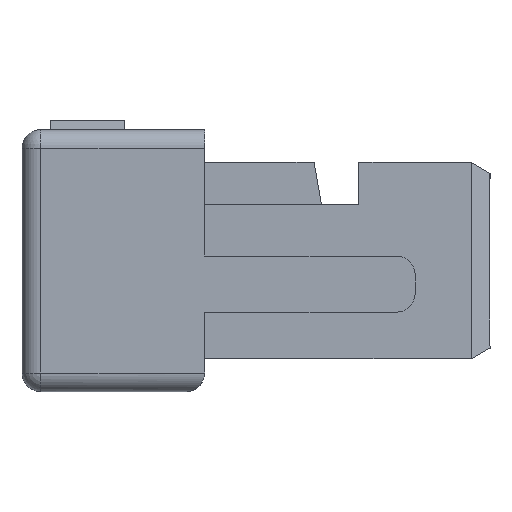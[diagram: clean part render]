
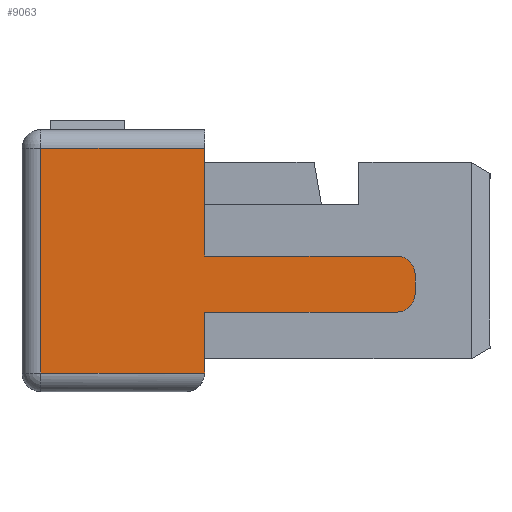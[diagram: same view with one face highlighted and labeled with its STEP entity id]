
A CAD part, left-side view. The second image highlights one B-rep face of the part: STEP entity #9063.
In plain terms, the highlighted planar face has unit normal (-1, 0, 0).
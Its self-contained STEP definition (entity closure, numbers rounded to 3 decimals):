
#2881=DIRECTION('',(0.,0.,1.));
#2882=VECTOR('',#2881,2.4);
#2883=CARTESIAN_POINT('',(0.,4.8,-2.7));
#2884=LINE('',#2883,#2882);
#2885=DIRECTION('',(0.,0.,-1.));
#2886=VECTOR('',#2885,1.15);
#2887=CARTESIAN_POINT('',(0.,3.05,-0.3));
#2888=LINE('',#2887,#2886);
#2889=DIRECTION('',(0.,-1.,0.));
#2890=VECTOR('',#2889,2.05);
#2891=CARTESIAN_POINT('',(0.,3.05,-1.45));
#2892=LINE('',#2891,#2890);
#2893=CARTESIAN_POINT('',(0.,1.,-1.65));
#2894=DIRECTION('',(1.,0.,0.));
#2895=DIRECTION('',(0.,0.,1.));
#2896=AXIS2_PLACEMENT_3D('',#2893,#2894,#2895);
#2898=CARTESIAN_POINT('',(0.,1.,-1.85));
#2899=DIRECTION('',(1.,0.,0.));
#2900=DIRECTION('',(0.,-1.,0.));
#2901=AXIS2_PLACEMENT_3D('',#2898,#2899,#2900);
#2908=DIRECTION('',(0.,-1.,0.));
#2909=VECTOR('',#2908,1.75);
#2910=CARTESIAN_POINT('',(0.,4.8,-2.7));
#2911=LINE('',#2910,#2909);
#2948=DIRECTION('',(0.,1.,0.));
#2949=VECTOR('',#2948,1.75);
#2950=CARTESIAN_POINT('',(0.,3.05,-0.3));
#2951=LINE('',#2950,#2949);
#2978=DIRECTION('',(0.,0.,1.));
#2979=VECTOR('',#2978,0.65);
#2980=CARTESIAN_POINT('',(0.,3.05,-2.7));
#2981=LINE('',#2980,#2979);
#2990=DIRECTION('',(0.,-1.,0.));
#2991=VECTOR('',#2990,2.05);
#2992=CARTESIAN_POINT('',(0.,3.05,-2.05));
#2993=LINE('',#2992,#2991);
#3014=DIRECTION('',(0.,0.,1.));
#3015=VECTOR('',#3014,0.2);
#3016=CARTESIAN_POINT('',(0.,0.8,-1.85));
#3017=LINE('',#3016,#3015);
#3713=CARTESIAN_POINT('',(0.,4.8,-2.7));
#3715=VERTEX_POINT('',#3713);
#3721=CARTESIAN_POINT('',(0.,4.8,-0.3));
#3722=VERTEX_POINT('',#3721);
#4007=CARTESIAN_POINT('',(0.,3.05,-1.45));
#4008=VERTEX_POINT('',#4007);
#4009=CARTESIAN_POINT('',(0.,3.05,-0.3));
#4010=VERTEX_POINT('',#4009);
#4021=CARTESIAN_POINT('',(0.,1.,-1.45));
#4022=VERTEX_POINT('',#4021);
#4023=CARTESIAN_POINT('',(0.,0.8,-1.65));
#4024=VERTEX_POINT('',#4023);
#4025=CARTESIAN_POINT('',(0.,0.8,-1.85));
#4026=VERTEX_POINT('',#4025);
#4027=CARTESIAN_POINT('',(0.,1.,-2.05));
#4028=VERTEX_POINT('',#4027);
#4029=CARTESIAN_POINT('',(0.,3.05,-2.05));
#4030=VERTEX_POINT('',#4029);
#4033=CARTESIAN_POINT('',(0.,3.05,-2.7));
#4034=VERTEX_POINT('',#4033);
#9038=CARTESIAN_POINT('',(0.,2.8,-1.5));
#9039=DIRECTION('',(1.,0.,0.));
#9040=DIRECTION('',(0.,0.,-1.));
#9041=AXIS2_PLACEMENT_3D('',#9038,#9039,#9040);
#9042=PLANE('',#9041);
#9044=ORIENTED_EDGE('',*,*,#9043,.F.);
#9046=ORIENTED_EDGE('',*,*,#9045,.T.);
#9048=ORIENTED_EDGE('',*,*,#9047,.F.);
#9049=ORIENTED_EDGE('',*,*,#9016,.T.);
#9050=ORIENTED_EDGE('',*,*,#9029,.T.);
#9052=ORIENTED_EDGE('',*,*,#9051,.T.);
#9054=ORIENTED_EDGE('',*,*,#9053,.F.);
#9056=ORIENTED_EDGE('',*,*,#9055,.T.);
#9058=ORIENTED_EDGE('',*,*,#9057,.F.);
#9060=ORIENTED_EDGE('',*,*,#9059,.F.);
#9061=EDGE_LOOP('',(#9044,#9046,#9048,#9049,#9050,#9052,#9054,#9056,#9058,
#9060));
#9062=FACE_OUTER_BOUND('',#9061,.F.);
#2897=CIRCLE('',#2896,0.2);
#2902=CIRCLE('',#2901,0.2);
#9016=EDGE_CURVE('',#4010,#4008,#2888,.T.);
#9029=EDGE_CURVE('',#4008,#4022,#2892,.T.);
#9043=EDGE_CURVE('',#3715,#4034,#2911,.T.);
#9045=EDGE_CURVE('',#3715,#3722,#2884,.T.);
#9047=EDGE_CURVE('',#4010,#3722,#2951,.T.);
#9051=EDGE_CURVE('',#4022,#4024,#2897,.T.);
#9053=EDGE_CURVE('',#4026,#4024,#3017,.T.);
#9055=EDGE_CURVE('',#4026,#4028,#2902,.T.);
#9057=EDGE_CURVE('',#4030,#4028,#2993,.T.);
#9059=EDGE_CURVE('',#4034,#4030,#2981,.T.);
#9063=ADVANCED_FACE('',(#9062),#9042,.F.);
